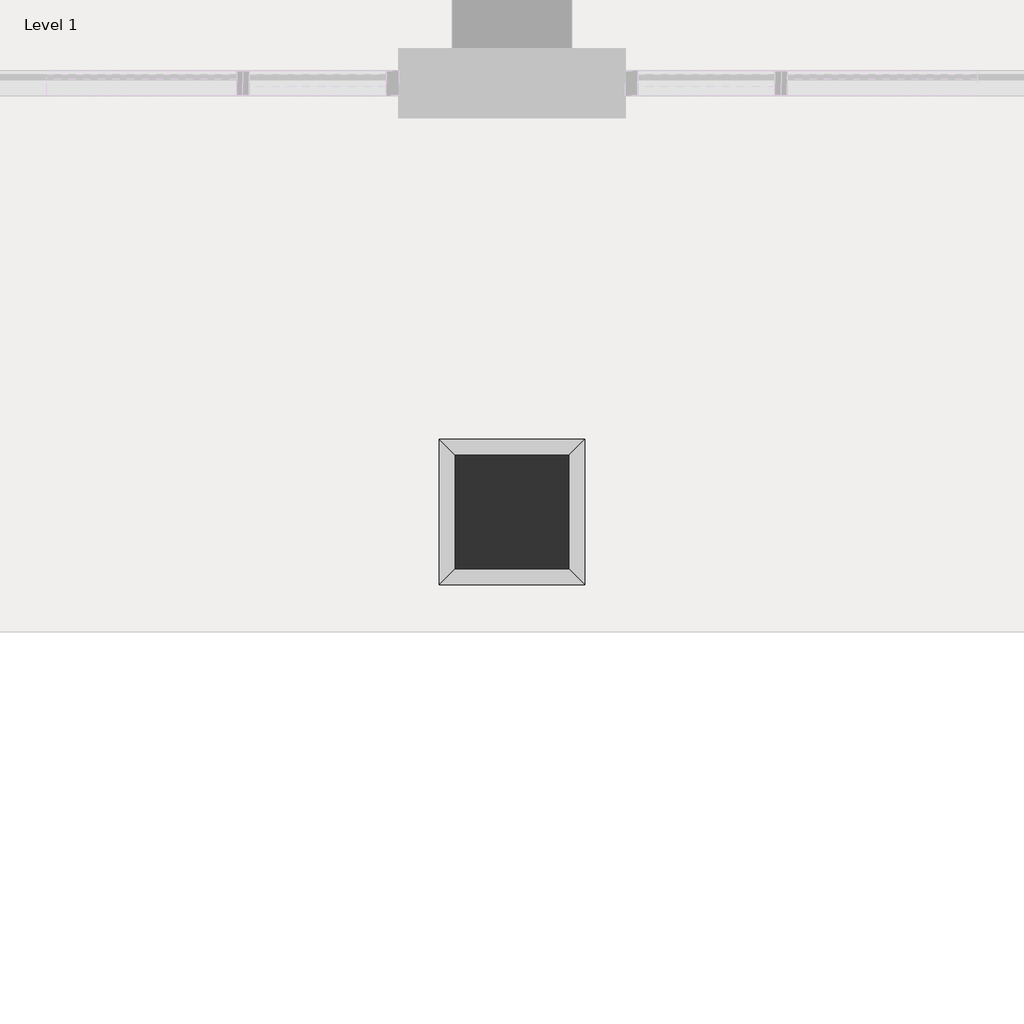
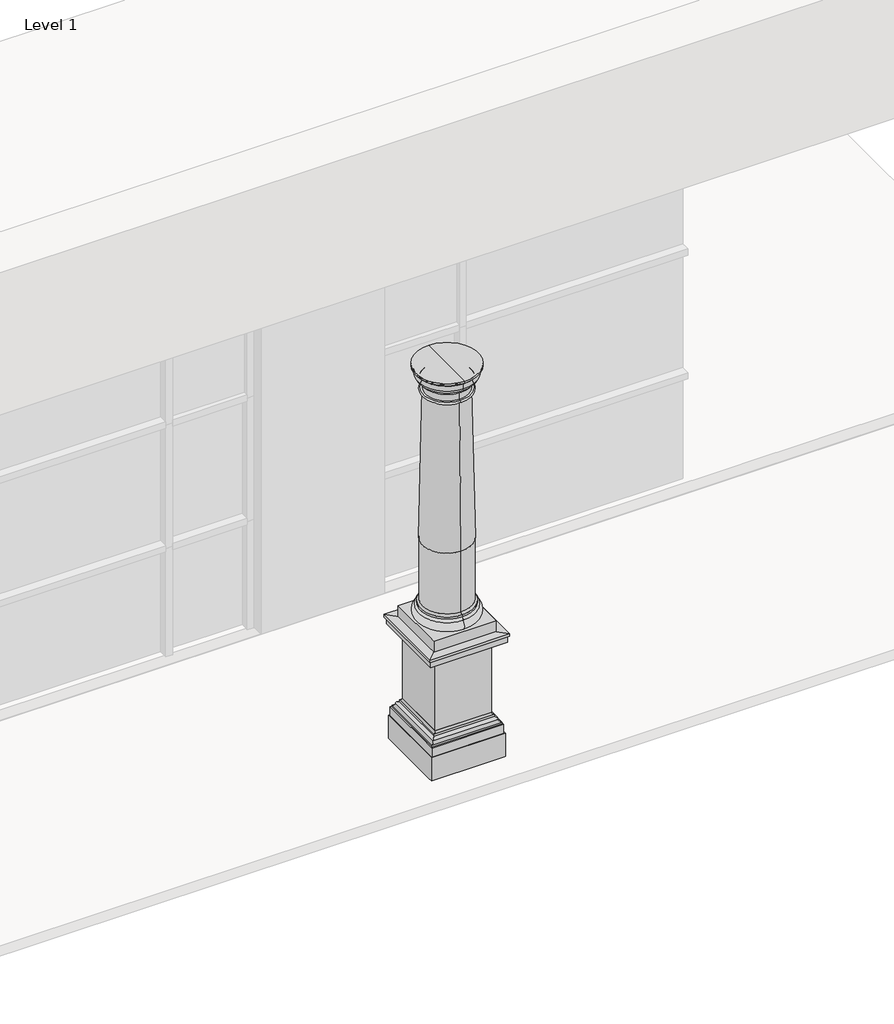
# One storey, part 6 of 8: 1 column.
"""IFC4 building model written with IfcOpenShell, lengths in millimetres."""

from ifc_helpers import new_model, si_unit, point, frame, origin, place, context, project, spatial, polyline, circle_curve, ellipse_curve, trimmed, outline, extrude, faceted_brep, element, save
from ifc_brep_helpers import plane_surface, cylinder_surface, revolved_surface, advanced_brep

model = new_model("IFC4")

# Units and contexts
model_context = context("Model", 3, world=origin())
ifc_project = project(units=[si_unit("LENGTHUNIT", "METRE", prefix="MILLI")], contexts=[model_context])

# Site, building, storey
site = spatial("IfcSite", under=ifc_project)
building = spatial("IfcBuilding", under=site)
storey = spatial("IfcBuildingStorey", under=building, Name="Level 1", Elevation=0.0)

# Column
placement = place(None, origin())
element("IfcColumn", 1, ObjectType="Doric Column : 16'  Height (10 2/3 x Dia.)", at=placement, inside=storey, context=model_context, shape_type="SolidModel", body=[
    extrude(outline(polyline([(10198.6358448, -1720.0769576), (10198.6358448, -2297.9269576), (9620.7858448, -2297.9269576), (9620.7858448, -1720.0769576), (10198.6358448, -1720.0769576)])), frame((0.0, 0.0, 1117.6), z_axis=(0.0, 0.0, 1.0), x_axis=(1.0, 0.0, 0.0)), (0.0, 0.0, 1.0), 107.95),
    faceted_brep([(9681.1108448, -2237.6019576, 1117.6), (9538.2358448, -2380.4769576, 1117.6), (10281.1858448, -2380.4769576, 1117.6), (10138.3108448, -2237.6019576, 1117.6), (9681.1108448, -2237.6019576, 1003.3), (10138.3108448, -2237.6019576, 1003.3), (9609.8279277, -2308.8848746, 1003.3), (10209.5937619, -2308.8848746, 1003.3), (9576.3358448, -2342.3769576, 1028.7), (10243.0858448, -2342.3769576, 1028.7), (9550.9358448, -2367.7769576, 1028.7), (10268.4858448, -2367.7769576, 1028.7), (9550.9358448, -2367.7769576, 1092.2), (10268.4858448, -2367.7769576, 1092.2), (9538.2358448, -2380.4769576, 1092.2), (10281.1858448, -2380.4769576, 1092.2), (10281.1858448, -1637.5269576, 1117.6), (10138.3108448, -1780.4019576, 1117.6), (10138.3108448, -1780.4019576, 1003.3), (10209.5937619, -1709.1190405, 1003.3), (10243.0858448, -1675.6269576, 1028.7), (10268.4858448, -1650.2269576, 1028.7), (10268.4858448, -1650.2269576, 1092.2), (10281.1858448, -1637.5269576, 1092.2), (9538.2358448, -1637.5269576, 1117.6), (9681.1108448, -1780.4019576, 1117.6), (9681.1108448, -1780.4019576, 1003.3), (9609.8279277, -1709.1190405, 1003.3), (9576.3358448, -1675.6269576, 1028.7), (9550.9358448, -1650.2269576, 1028.7), (9550.9358448, -1650.2269576, 1092.2), (9538.2358448, -1637.5269576, 1092.2)], [[[0, 1, 2, 3]], [[4, 0, 3, 5]], [[6, 4, 5, 7]], [[8, 6, 7, 9]], [[10, 8, 9, 11]], [[12, 10, 11, 13]], [[14, 12, 13, 15]], [[1, 14, 15, 2]], [[3, 2, 16, 17]], [[5, 3, 17, 18]], [[7, 5, 18, 19]], [[9, 7, 19, 20]], [[11, 9, 20, 21]], [[13, 11, 21, 22]], [[15, 13, 22, 23]], [[2, 15, 23, 16]], [[17, 16, 24, 25]], [[18, 17, 25, 26]], [[19, 18, 26, 27]], [[20, 19, 27, 28]], [[21, 20, 28, 29]], [[22, 21, 29, 30]], [[23, 22, 30, 31]], [[16, 23, 31, 24]], [[25, 24, 1, 0]], [[26, 25, 0, 4]], [[27, 26, 4, 6]], [[28, 27, 6, 8]], [[29, 28, 8, 10]], [[30, 29, 10, 12]], [[31, 30, 12, 14]], [[24, 31, 14, 1]]]),
    advanced_brep(
    [(9909.7108448, -2256.6519576, 1358.9), (9909.7108448, -1761.3519576, 1358.9), (9909.7108448, -1780.4019576, 1377.95), (9909.7108448, -2237.6019576, 1377.95), (9909.7108448, -1780.4019576, 1976.1708333), (9909.7108448, -2237.6019576, 1976.1708333), (9909.7108448, -2256.6519576, 1339.85), (9909.7108448, -1761.3519576, 1339.85), (9909.7108448, -2256.6519576, 1308.1), (9909.7108448, -1761.3519576, 1308.1), (9909.7108448, -2256.6519576, 1225.55), (9909.7108448, -1761.3519576, 1225.55), (9909.7108448, -2009.0019576, 1225.55), (9909.7108448, -1808.9769576, 3439.3125), (9909.7108448, -2209.0269576, 3439.3125), (9909.7108448, -2301.1019576, 3674.2625601), (9909.7108448, -1716.9019576, 3674.2625601), (9909.7108448, -1716.9019576, 3693.3125), (9909.7108448, -2301.1019576, 3693.3125), (9909.7108448, -2009.0019576, 3693.3125), (9909.7108448, -2282.0518974, 3655.2125), (9909.7108448, -1735.9520177, 3655.2125), (9909.7108448, -2278.8769576, 3655.2125), (9909.7108448, -1739.1269576, 3655.2125), (9909.7108448, -2278.8769576, 3604.4125), (9909.7108448, -1739.1269576, 3604.4125), (9909.7108448, -2272.5269576, 3604.4125), (9909.7108448, -1745.4769576, 3604.4125), (9909.7108448, -2228.0769576, 3559.9625), (9909.7108448, -1789.9269576, 3559.9625), (9909.7108448, -2228.0769576, 3540.9125), (9909.7108448, -1789.9269576, 3540.9125), (9909.7108448, -2209.0269576, 3540.9125), (9909.7108448, -1808.9769576, 3540.9125), (9909.7108448, -2209.0269576, 3458.3625), (9909.7108448, -1808.9769576, 3458.3625), (9909.7108448, -2228.0769576, 3458.3625), (9909.7108448, -1789.9269576, 3458.3625), (9909.7108448, -2228.0769576, 3439.3125), (9909.7108448, -1789.9269576, 3439.3125)],
    [
        (0, 1, circle_curve(frame((9909.7108448, -2009.0019576, 1358.9), z_axis=(0.0, 0.0, 1.0), x_axis=(0.0, 1.0, 0.0)), 247.65)),
        (1, 2, circle_curve(frame((9909.7108448, -1761.3519576, 1377.95), z_axis=(-1.0, 0.0, 0.0), x_axis=(0.0, -1.0, 0.0)), 19.05)),
        (2, 3, circle_curve(frame((9909.7108448, -2009.0019576, 1377.95), z_axis=(0.0, 0.0, -1.0), x_axis=(0.0, 1.0, 0.0)), 228.6)),
        (3, 0, circle_curve(frame((9909.7108448, -2256.6519576, 1377.95), z_axis=(-1.0, 0.0, 0.0), x_axis=(0.0, 1.0, 0.0)), 19.05)),
        (2, 4),
        (4, 5, circle_curve(frame((9909.7108448, -2009.0019576, 1976.1708333), z_axis=(0.0, 0.0, -1.0), x_axis=(0.0, 1.0, 0.0)), 228.6)),
        (5, 3),
        (2, 3, circle_curve(frame((9909.7108448, -2009.0019576, 1377.95), z_axis=(0.0, 0.0, 1.0), x_axis=(0.0, 1.0, 0.0)), 228.6)),
        (5, 4, circle_curve(frame((9909.7108448, -2009.0019576, 1976.1708333), z_axis=(0.0, 0.0, -1.0), x_axis=(0.0, 1.0, 0.0)), 228.6)),
        (1, 0, circle_curve(frame((9909.7108448, -2009.0019576, 1358.9), z_axis=(0.0, 0.0, 1.0), x_axis=(0.0, 1.0, 0.0)), 247.65)),
        (6, 7, circle_curve(frame((9909.7108448, -2009.0019576, 1339.85), z_axis=(0.0, 0.0, 1.0), x_axis=(0.0, 1.0, 0.0)), 247.65)),
        (7, 1),
        (0, 6),
        (7, 6, circle_curve(frame((9909.7108448, -2009.0019576, 1339.85), z_axis=(0.0, 0.0, 1.0), x_axis=(0.0, 1.0, 0.0)), 247.65)),
        (8, 9, circle_curve(frame((9909.7108448, -2009.0019576, 1308.1), z_axis=(0.0, 0.0, 1.0), x_axis=(0.0, 1.0, 0.0)), 247.65)),
        (9, 7, circle_curve(frame((9909.7108448, -1761.3519576, 1323.975), z_axis=(1.0, 0.0, 0.0), x_axis=(0.0, -1.0, 0.0)), 15.875)),
        (6, 8, circle_curve(frame((9909.7108448, -2256.6519576, 1323.975), z_axis=(1.0, 0.0, 0.0), x_axis=(0.0, 1.0, 0.0)), 15.875)),
        (9, 8, circle_curve(frame((9909.7108448, -2009.0019576, 1308.1), z_axis=(0.0, 0.0, 1.0), x_axis=(0.0, 1.0, 0.0)), 247.65)),
        (10, 11, circle_curve(frame((9909.7108448, -2009.0019576, 1225.55), z_axis=(0.0, 0.0, 1.0), x_axis=(0.0, 1.0, 0.0)), 247.65)),
        (11, 9, circle_curve(frame((9909.7108448, -1761.3519576, 1266.825), z_axis=(1.0, 0.0, 0.0), x_axis=(0.0, -1.0, 0.0)), 41.275)),
        (8, 10, circle_curve(frame((9909.7108448, -2256.6519576, 1266.825), z_axis=(1.0, 0.0, 0.0), x_axis=(0.0, 1.0, 0.0)), 41.275)),
        (11, 10, circle_curve(frame((9909.7108448, -2009.0019576, 1225.55), z_axis=(0.0, 0.0, 1.0), x_axis=(0.0, 1.0, 0.0)), 247.65)),
        (12, 11),
        (10, 12),
        (4, 13),
        (13, 14, circle_curve(frame((9909.7108448, -2009.0019576, 3439.3125), z_axis=(0.0, 0.0, -1.0), x_axis=(0.0, 1.0, 0.0)), 200.025)),
        (14, 5),
        (14, 13, circle_curve(frame((9909.7108448, -2009.0019576, 3439.3125), z_axis=(0.0, 0.0, -1.0), x_axis=(0.0, 1.0, 0.0)), 200.025)),
        (15, 16, circle_curve(frame((9909.7108448, -2009.0019576, 3674.2625601), z_axis=(0.0, 0.0, 1.0), x_axis=(0.0, 1.0, 0.0)), 292.1)),
        (16, 17),
        (17, 18, circle_curve(frame((9909.7108448, -2009.0019576, 3693.3125), z_axis=(0.0, 0.0, -1.0), x_axis=(0.0, 1.0, 0.0)), 292.1)),
        (18, 15),
        (17, 19),
        (19, 18),
        (17, 18, circle_curve(frame((9909.7108448, -2009.0019576, 3693.3125), z_axis=(0.0, 0.0, 1.0), x_axis=(0.0, 1.0, 0.0)), 292.1)),
        (16, 15, circle_curve(frame((9909.7108448, -2009.0019576, 3674.2625601), z_axis=(0.0, 0.0, 1.0), x_axis=(0.0, 1.0, 0.0)), 292.1)),
        (20, 21, circle_curve(frame((9909.7108448, -2009.0019576, 3655.2125), z_axis=(0.0, 0.0, 1.0), x_axis=(0.0, 1.0, 0.0)), 273.0499399)),
        (21, 16, circle_curve(frame((9909.7108448, -1716.9019576, 3655.2125), z_axis=(-1.0, 0.0, 0.0), x_axis=(0.0, -1.0, 0.0)), 19.0500601)),
        (15, 20, circle_curve(frame((9909.7108448, -2301.1019576, 3655.2125), z_axis=(-1.0, 0.0, 0.0), x_axis=(0.0, 1.0, 0.0)), 19.0500601)),
        (21, 20, circle_curve(frame((9909.7108448, -2009.0019576, 3655.2125), z_axis=(0.0, 0.0, 1.0), x_axis=(0.0, 1.0, 0.0)), 273.0499399)),
        (22, 23, circle_curve(frame((9909.7108448, -2009.0019576, 3655.2125), z_axis=(0.0, 0.0, 1.0), x_axis=(0.0, 1.0, 0.0)), 269.875)),
        (23, 21),
        (20, 22),
        (23, 22, circle_curve(frame((9909.7108448, -2009.0019576, 3655.2125), z_axis=(0.0, 0.0, 1.0), x_axis=(0.0, 1.0, 0.0)), 269.875)),
        (24, 25, circle_curve(frame((9909.7108448, -2009.0019576, 3604.4125), z_axis=(0.0, 0.0, 1.0), x_axis=(0.0, 1.0, 0.0)), 269.875)),
        (25, 23),
        (22, 24),
        (25, 24, circle_curve(frame((9909.7108448, -2009.0019576, 3604.4125), z_axis=(0.0, 0.0, 1.0), x_axis=(0.0, 1.0, 0.0)), 269.875)),
        (26, 27, circle_curve(frame((9909.7108448, -2009.0019576, 3604.4125), z_axis=(0.0, 0.0, 1.0), x_axis=(0.0, 1.0, 0.0)), 263.525)),
        (27, 25),
        (24, 26),
        (27, 26, circle_curve(frame((9909.7108448, -2009.0019576, 3604.4125), z_axis=(0.0, 0.0, 1.0), x_axis=(0.0, 1.0, 0.0)), 263.525)),
        (28, 29, circle_curve(frame((9909.7108448, -2009.0019576, 3559.9625), z_axis=(0.0, 0.0, 1.0), x_axis=(0.0, 1.0, 0.0)), 219.075)),
        (29, 27, circle_curve(frame((9909.7108448, -1789.9269576, 3604.4125), z_axis=(1.0, 0.0, 0.0), x_axis=(0.0, -1.0, 0.0)), 44.45)),
        (26, 28, circle_curve(frame((9909.7108448, -2228.0769576, 3604.4125), z_axis=(1.0, 0.0, 0.0), x_axis=(0.0, 1.0, 0.0)), 44.45)),
        (29, 28, circle_curve(frame((9909.7108448, -2009.0019576, 3559.9625), z_axis=(0.0, 0.0, 1.0), x_axis=(0.0, 1.0, 0.0)), 219.075)),
        (30, 31, circle_curve(frame((9909.7108448, -2009.0019576, 3540.9125), z_axis=(0.0, 0.0, 1.0), x_axis=(0.0, 1.0, 0.0)), 219.075)),
        (31, 29, circle_curve(frame((9909.7108448, -1789.9269576, 3550.4375), z_axis=(1.0, 0.0, 0.0), x_axis=(0.0, -1.0, 0.0)), 9.525)),
        (28, 30, circle_curve(frame((9909.7108448, -2228.0769576, 3550.4375), z_axis=(1.0, 0.0, 0.0), x_axis=(0.0, 1.0, 0.0)), 9.525)),
        (31, 30, circle_curve(frame((9909.7108448, -2009.0019576, 3540.9125), z_axis=(0.0, 0.0, 1.0), x_axis=(0.0, 1.0, 0.0)), 219.075)),
        (32, 33, circle_curve(frame((9909.7108448, -2009.0019576, 3540.9125), z_axis=(0.0, 0.0, 1.0), x_axis=(0.0, 1.0, 0.0)), 200.025)),
        (33, 31),
        (30, 32),
        (33, 32, circle_curve(frame((9909.7108448, -2009.0019576, 3540.9125), z_axis=(0.0, 0.0, 1.0), x_axis=(0.0, 1.0, 0.0)), 200.025)),
        (34, 35, circle_curve(frame((9909.7108448, -2009.0019576, 3458.3625), z_axis=(0.0, 0.0, 1.0), x_axis=(0.0, 1.0, 0.0)), 200.025)),
        (35, 33),
        (32, 34),
        (35, 34, circle_curve(frame((9909.7108448, -2009.0019576, 3458.3625), z_axis=(0.0, 0.0, 1.0), x_axis=(0.0, 1.0, 0.0)), 200.025)),
        (36, 37, circle_curve(frame((9909.7108448, -2009.0019576, 3458.3625), z_axis=(0.0, 0.0, 1.0), x_axis=(0.0, 1.0, 0.0)), 219.075)),
        (37, 35),
        (34, 36),
        (37, 36, circle_curve(frame((9909.7108448, -2009.0019576, 3458.3625), z_axis=(0.0, 0.0, 1.0), x_axis=(0.0, 1.0, 0.0)), 219.075)),
        (38, 39, circle_curve(frame((9909.7108448, -2009.0019576, 3439.3125), z_axis=(0.0, 0.0, 1.0), x_axis=(0.0, 1.0, 0.0)), 219.075)),
        (39, 37, circle_curve(frame((9909.7108448, -1789.9269576, 3448.8375), z_axis=(1.0, 0.0, 0.0), x_axis=(0.0, -1.0, 0.0)), 9.525)),
        (36, 38, circle_curve(frame((9909.7108448, -2228.0769576, 3448.8375), z_axis=(1.0, 0.0, 0.0), x_axis=(0.0, 1.0, 0.0)), 9.525)),
        (39, 38, circle_curve(frame((9909.7108448, -2009.0019576, 3439.3125), z_axis=(0.0, 0.0, 1.0), x_axis=(0.0, 1.0, 0.0)), 219.075)),
        (13, 39),
        (38, 14),
    ],
    [
        revolved_surface(trimmed(ellipse_curve(frame((9909.7108448, -1761.3519576, 1377.95), z_axis=(1.0, 0.0, 0.0), x_axis=(0.0, -1.0, 0.0)), 19.05, 19.05), [point((9909.7108448, -1780.4019576, 1377.95))], [point((9909.7108448, -1761.3519576, 1358.9))], True, "CARTESIAN"), (9909.7108448, -2009.0019576, 3693.3125), (0.0, 0.0, -1.0)),
        cylinder_surface(frame((9909.7108448, -2009.0019576, 3693.3125), z_axis=(0.0, 0.0, -1.0), x_axis=(0.0, 1.0, 0.0)), 228.6),
        cylinder_surface(frame((9909.7108448, -2009.0019576, 3693.3125), z_axis=(0.0, 0.0, -1.0), x_axis=(0.0, 1.0, 0.0)), 247.65),
        revolved_surface(trimmed(ellipse_curve(frame((9909.7108448, -1761.3519576, 1323.975), z_axis=(-1.0, 0.0, 0.0), x_axis=(0.0, -1.0, 0.0)), 15.875, 15.875), [point((9909.7108448, -1761.3519576, 1339.85))], [point((9909.7108448, -1761.3519576, 1308.1))], True, "CARTESIAN"), (9909.7108448, -2009.0019576, 3693.3125), (0.0, 0.0, -1.0)),
        revolved_surface(trimmed(ellipse_curve(frame((9909.7108448, -1761.3519576, 1266.825), z_axis=(-1.0, 0.0, 0.0), x_axis=(0.0, -1.0, 0.0)), 41.275, 41.275), [point((9909.7108448, -1761.3519576, 1308.1))], [point((9909.7108448, -1761.3519576, 1225.55))], True, "CARTESIAN"), (9909.7108448, -2009.0019576, 3693.3125), (0.0, 0.0, -1.0)),
        plane_surface(frame((9909.7108448, -2009.0019576, 1225.55), z_axis=(0.0, 0.0, -1.0), x_axis=(0.0, 1.0, 0.0))),
        revolved_surface(polyline([(9909.7108448, -1808.9769576, 3439.3125), (9909.7108448, -1780.4019576, 1976.1708333)]), (9909.7108448, -2009.0019576, 3693.3125), (0.0, 0.0, -1.0)),
        cylinder_surface(frame((9909.7108448, -2009.0019576, 3693.3125), z_axis=(0.0, 0.0, -1.0), x_axis=(0.0, 1.0, 0.0)), 292.1),
        plane_surface(frame((9909.7108448, -2009.0019576, 3693.3125), z_axis=(0.0, 0.0, 1.0), x_axis=(0.0, 1.0, 0.0))),
        revolved_surface(trimmed(ellipse_curve(frame((9909.7108448, -1716.9019576, 3655.2125), z_axis=(1.0, 0.0, 0.0), x_axis=(0.0, -1.0, 0.0)), 19.0500601, 19.0500601), [point((9909.7108448, -1716.9019576, 3674.2625601))], [point((9909.7108448, -1735.9520177, 3655.2125))], True, "CARTESIAN"), (9909.7108448, -2009.0019576, 3693.3125), (0.0, 0.0, -1.0)),
        plane_surface(frame((9909.7108448, -2009.0019576, 3655.2125), z_axis=(0.0, 0.0, -1.0), x_axis=(0.0, 1.0, 0.0))),
        cylinder_surface(frame((9909.7108448, -2009.0019576, 3693.3125), z_axis=(0.0, 0.0, -1.0), x_axis=(0.0, 1.0, 0.0)), 269.875),
        plane_surface(frame((9909.7108448, -2009.0019576, 3604.4125), z_axis=(0.0, 0.0, -1.0), x_axis=(0.0, 1.0, 0.0))),
        revolved_surface(trimmed(ellipse_curve(frame((9909.7108448, -1789.9269576, 3604.4125), z_axis=(-1.0, 0.0, 0.0), x_axis=(0.0, -1.0, 0.0)), 44.45, 44.45), [point((9909.7108448, -1745.4769576, 3604.4125))], [point((9909.7108448, -1789.9269576, 3559.9625))], True, "CARTESIAN"), (9909.7108448, -2009.0019576, 3693.3125), (0.0, 0.0, -1.0)),
        revolved_surface(trimmed(ellipse_curve(frame((9909.7108448, -1789.9269576, 3550.4375), z_axis=(-1.0, 0.0, 0.0), x_axis=(0.0, -1.0, 0.0)), 9.525, 9.525), [point((9909.7108448, -1789.9269576, 3559.9625))], [point((9909.7108448, -1789.9269576, 3540.9125))], True, "CARTESIAN"), (9909.7108448, -2009.0019576, 3693.3125), (0.0, 0.0, -1.0)),
        plane_surface(frame((9909.7108448, -2009.0019576, 3540.9125), z_axis=(0.0, 0.0, -1.0), x_axis=(0.0, 1.0, 0.0))),
        cylinder_surface(frame((9909.7108448, -2009.0019576, 3693.3125), z_axis=(0.0, 0.0, -1.0), x_axis=(0.0, 1.0, 0.0)), 200.025),
        plane_surface(frame((9909.7108448, -2009.0019576, 3458.3625), z_axis=(0.0, 0.0, 1.0), x_axis=(0.0, 1.0, 0.0))),
        revolved_surface(trimmed(ellipse_curve(frame((9909.7108448, -1789.9269576, 3448.8375), z_axis=(-1.0, 0.0, 0.0), x_axis=(0.0, -1.0, 0.0)), 9.525, 9.525), [point((9909.7108448, -1789.9269576, 3458.3625))], [point((9909.7108448, -1789.9269576, 3439.3125))], True, "CARTESIAN"), (9909.7108448, -2009.0019576, 3693.3125), (0.0, 0.0, -1.0)),
        plane_surface(frame((9909.7108448, -2009.0019576, 3439.3125), z_axis=(0.0, 0.0, -1.0), x_axis=(0.0, 1.0, 0.0))),
    ],
    [
        (0, [[1, 2, 3, 4]]),
        (1, [[-3, 5, 6, 7]]),
        (1, [[8, -7, 9, -5]]),
        (0, [[10, -4, -8, -2]]),
        (2, [[11, 12, -1, 13]]),
        (2, [[14, -13, -10, -12]]),
        (3, [[15, 16, -11, 17]]),
        (3, [[18, -17, -14, -16]]),
        (4, [[19, 20, -15, 21]]),
        (4, [[22, -21, -18, -20]]),
        (5, [[23, -19, 24]]),
        (5, [[-24, -22, -23]]),
        (6, [[-6, 25, 26, 27]]),
        (6, [[-9, -27, 28, -25]]),
        (7, [[29, 30, 31, 32]]),
        (8, [[-31, 33, 34]]),
        (8, [[35, -34, -33]]),
        (7, [[36, -32, -35, -30]]),
        (9, [[37, 38, -29, 39]]),
        (9, [[40, -39, -36, -38]]),
        (10, [[41, 42, -37, 43]]),
        (10, [[44, -43, -40, -42]]),
        (11, [[45, 46, -41, 47]]),
        (11, [[48, -47, -44, -46]]),
        (12, [[49, 50, -45, 51]]),
        (12, [[52, -51, -48, -50]]),
        (13, [[53, 54, -49, 55]]),
        (13, [[56, -55, -52, -54]]),
        (14, [[57, 58, -53, 59]]),
        (14, [[60, -59, -56, -58]]),
        (15, [[61, 62, -57, 63]]),
        (15, [[64, -63, -60, -62]]),
        (16, [[65, 66, -61, 67]]),
        (16, [[68, -67, -64, -66]]),
        (17, [[69, 70, -65, 71]]),
        (17, [[72, -71, -68, -70]]),
        (18, [[73, 74, -69, 75]]),
        (18, [[76, -75, -72, -74]]),
        (19, [[-26, 77, -73, 78]]),
        (19, [[-28, -78, -76, -77]]),
    ],
),
    advanced_brep(
    [(10255.1559911, -1663.5568112, -101.6), (10255.1559911, -1663.5568112, 127.0), (10255.1559911, -2354.4471039, 127.0), (10255.1559911, -2354.4471039, -101.6), (10138.3108448, -1780.4019576, -101.6), (10138.3108448, -2237.6019576, -101.6), (10138.3108448, -1780.4019576, 317.5), (10138.3108448, -2237.6019576, 317.5), (10172.6059911, -1746.1068112, 317.5), (10172.6059911, -2271.8971039, 317.5), (10191.6559911, -1727.0568112, 298.45), (10191.6559911, -2290.9471039, 298.45), (10191.6559911, -1727.0568112, 279.4), (10191.6559911, -2290.9471039, 279.4), (10213.8809911, -1704.8318112, 257.175), (10213.8809911, -2313.1721039, 257.175), (10236.1059911, -1682.6068112, 234.95), (10236.1059911, -2335.3971039, 234.95), (10236.1059911, -1682.6068112, 215.9), (10236.1059911, -2335.3971039, 215.9), (10245.6309911, -1673.0818112, 215.9), (10245.6309911, -2344.9221039, 215.9), (10245.6309911, -1673.0818112, 127.0), (10245.6309911, -2344.9221039, 127.0), (9564.2656985, -2354.4471039, 127.0), (9564.2656985, -2354.4471039, -101.6), (9681.1108448, -2237.6019576, -101.6), (9681.1108448, -2237.6019576, 317.5), (9646.8156985, -2271.8971039, 317.5), (9627.7656985, -2290.9471039, 298.45), (9627.7656985, -2290.9471039, 279.4), (9605.5406985, -2313.1721039, 257.175), (9583.3156985, -2335.3971039, 234.95), (9583.3156985, -2335.3971039, 215.9), (9573.7906985, -2344.9221039, 215.9), (9573.7906985, -2344.9221039, 127.0), (9564.2656985, -1663.5568112, 127.0), (9564.2656985, -1663.5568112, -101.6), (9681.1108448, -1780.4019576, -101.6), (9681.1108448, -1780.4019576, 317.5), (9646.8156985, -1746.1068112, 317.5), (9627.7656985, -1727.0568112, 298.45), (9627.7656985, -1727.0568112, 279.4), (9605.5406985, -1704.8318112, 257.175), (9583.3156985, -1682.6068112, 234.95), (9583.3156985, -1682.6068112, 215.9), (9573.7906985, -1673.0818112, 215.9), (9573.7906985, -1673.0818112, 127.0)],
    [
        (0, 1),
        (1, 2),
        (2, 3),
        (3, 0),
        (4, 0),
        (3, 5),
        (5, 4),
        (6, 4),
        (5, 7),
        (7, 6),
        (8, 6),
        (7, 9),
        (9, 8),
        (10, 8, ellipse_curve(frame((10191.6559911, -1727.0568112, 317.5), z_axis=(-0.7071067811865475, 0.7071067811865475, 0.0), x_axis=(-0.7071067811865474, -0.7071067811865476, 0.0)), 26.9407684, 19.05)),
        (9, 11, ellipse_curve(frame((10191.6559911, -2290.9471039, 317.5), z_axis=(-0.7071067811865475, -0.7071067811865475, 0.0), x_axis=(0.7071067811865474, -0.7071067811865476, 0.0)), 26.9407684, 19.05)),
        (11, 10),
        (12, 10),
        (11, 13),
        (13, 12),
        (14, 12, ellipse_curve(frame((10191.6559911, -1727.0568112, 257.175), z_axis=(0.7071067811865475, -0.7071067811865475, 0.0), x_axis=(0.7071067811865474, 0.7071067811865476, 0.0)), 31.4308964, 22.225)),
        (13, 15, ellipse_curve(frame((10191.6559911, -2290.9471039, 257.175), z_axis=(0.7071067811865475, 0.7071067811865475, 0.0), x_axis=(-0.7071067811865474, 0.7071067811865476, 0.0)), 31.4308964, 22.225)),
        (15, 14),
        (16, 14, ellipse_curve(frame((10236.1059911, -1682.6068112, 257.175), z_axis=(-0.7071067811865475, 0.7071067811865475, 0.0), x_axis=(-0.7071067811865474, -0.7071067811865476, 0.0)), 31.4308964, 22.225)),
        (15, 17, ellipse_curve(frame((10236.1059911, -2335.3971039, 257.175), z_axis=(-0.7071067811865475, -0.7071067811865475, 0.0), x_axis=(0.7071067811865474, -0.7071067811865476, 0.0)), 31.4308964, 22.225)),
        (17, 16),
        (18, 16),
        (17, 19),
        (19, 18),
        (20, 18),
        (19, 21),
        (21, 20),
        (22, 20),
        (21, 23),
        (23, 22),
        (1, 22),
        (23, 2),
        (2, 24),
        (24, 25),
        (25, 3),
        (25, 26),
        (26, 5),
        (26, 27),
        (27, 7),
        (27, 28),
        (28, 9),
        (28, 29, ellipse_curve(frame((9627.7656985, -2290.9471039, 317.5), z_axis=(-0.7071067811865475, 0.7071067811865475, 0.0), x_axis=(-0.7071067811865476, -0.7071067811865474, 0.0)), 26.9407684, 19.05)),
        (29, 11),
        (29, 30),
        (30, 13),
        (30, 31, ellipse_curve(frame((9627.7656985, -2290.9471039, 257.175), z_axis=(0.7071067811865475, -0.7071067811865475, 0.0), x_axis=(0.7071067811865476, 0.7071067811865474, 0.0)), 31.4308964, 22.225)),
        (31, 15),
        (31, 32, ellipse_curve(frame((9583.3156985, -2335.3971039, 257.175), z_axis=(-0.7071067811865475, 0.7071067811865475, 0.0), x_axis=(-0.7071067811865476, -0.7071067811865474, 0.0)), 31.4308964, 22.225)),
        (32, 17),
        (32, 33),
        (33, 19),
        (33, 34),
        (34, 21),
        (34, 35),
        (35, 23),
        (35, 24),
        (24, 36),
        (36, 37),
        (37, 25),
        (37, 38),
        (38, 26),
        (38, 39),
        (39, 27),
        (39, 40),
        (40, 28),
        (40, 41, ellipse_curve(frame((9627.7656985, -1727.0568112, 317.5), z_axis=(0.7071067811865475, 0.7071067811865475, 0.0), x_axis=(-0.7071067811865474, 0.7071067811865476, 0.0)), 26.9407684, 19.05)),
        (41, 29),
        (41, 42),
        (42, 30),
        (42, 43, ellipse_curve(frame((9627.7656985, -1727.0568112, 257.175), z_axis=(-0.7071067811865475, -0.7071067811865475, 0.0), x_axis=(0.7071067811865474, -0.7071067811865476, 0.0)), 31.4308964, 22.225)),
        (43, 31),
        (43, 44, ellipse_curve(frame((9583.3156985, -1682.6068112, 257.175), z_axis=(0.7071067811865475, 0.7071067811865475, 0.0), x_axis=(-0.7071067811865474, 0.7071067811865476, 0.0)), 31.4308964, 22.225)),
        (44, 32),
        (44, 45),
        (45, 33),
        (45, 46),
        (46, 34),
        (46, 47),
        (47, 35),
        (47, 36),
        (36, 1),
        (0, 37),
        (4, 38),
        (6, 39),
        (8, 40),
        (10, 41),
        (12, 42),
        (14, 43),
        (16, 44),
        (18, 45),
        (20, 46),
        (22, 47),
    ],
    [
        plane_surface(frame((10255.1559911, -1663.5568112, 127.0), z_axis=(1.0, 0.0, 0.0), x_axis=(0.0, -1.0, 0.0))),
        plane_surface(frame((10255.1559911, -1663.5568112, -101.6), z_axis=(0.0, 0.0, -1.0), x_axis=(0.0, -1.0, 0.0))),
        plane_surface(frame((10138.3108448, -1780.4019576, -101.6), z_axis=(-1.0, 0.0, 0.0), x_axis=(0.0, -1.0, 0.0))),
        plane_surface(frame((10138.3108448, -1780.4019576, 317.5), z_axis=(0.0, 0.0, 1.0), x_axis=(0.0, -1.0, 0.0))),
        revolved_surface(polyline([(10210.7059911, -2309.9971039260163, 317.5), (10210.7059911, -1708.0068111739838, 317.5)]), (10191.6559911, -1650.5418844, 317.5), (0.0, -1.0, 0.0)),
        plane_surface(frame((10191.6559911, -1727.0568112, 298.45), z_axis=(1.0, 0.0, 0.0), x_axis=(0.0, -1.0, 0.0))),
        cylinder_surface(frame((10191.6559911, -1650.5418844, 257.175), z_axis=(0.0, 1.0, 0.0), x_axis=(1.0, 0.0, 0.0)), 22.225),
        revolved_surface(polyline([(10258.3309911, -2357.622103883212, 257.175), (10258.3309911, -1660.3818112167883, 257.175)]), (10236.1059911, -1650.5418844, 257.175), (0.0, -1.0, 0.0)),
        plane_surface(frame((10236.1059911, -1682.6068112, 234.95), z_axis=(1.0, 0.0, 0.0), x_axis=(0.0, -1.0, 0.0))),
        plane_surface(frame((10236.1059911, -1682.6068112, 215.9), z_axis=(0.0, 0.0, 1.0), x_axis=(0.0, -1.0, 0.0))),
        plane_surface(frame((10245.6309911, -1673.0818112, 215.9), z_axis=(1.0, 0.0, 0.0), x_axis=(0.0, -1.0, 0.0))),
        plane_surface(frame((10245.6309911, -1673.0818112, 127.0), z_axis=(0.0, 0.0, 1.0), x_axis=(0.0, -1.0, 0.0))),
        plane_surface(frame((10255.1559911, -2354.4471039, 127.0), z_axis=(0.0, -1.0, 0.0), x_axis=(-1.0, 0.0, 0.0))),
        plane_surface(frame((10255.1559911, -2354.4471039, -101.6), z_axis=(0.0, 0.0, -1.0), x_axis=(-1.0, 0.0, 0.0))),
        plane_surface(frame((10138.3108448, -2237.6019576, -101.6), z_axis=(0.0, 1.0, 0.0), x_axis=(-1.0, 0.0, 0.0))),
        plane_surface(frame((10138.3108448, -2237.6019576, 317.5), z_axis=(0.0, 0.0, 1.0), x_axis=(-1.0, 0.0, 0.0))),
        revolved_surface(polyline([(9608.715698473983, -2309.9971039, 317.5), (10210.705991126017, -2309.9971039, 317.5)]), (10268.170918, -2290.9471039, 317.5), (-1.0, 0.0, 0.0)),
        plane_surface(frame((10191.6559911, -2290.9471039, 298.45), z_axis=(0.0, -1.0, 0.0), x_axis=(-1.0, 0.0, 0.0))),
        cylinder_surface(frame((10268.170918, -2290.9471039, 257.175), z_axis=(1.0, 0.0, 0.0), x_axis=(0.0, -1.0, 0.0)), 22.225),
        revolved_surface(polyline([(9561.09069851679, -2357.6221038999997, 257.175), (10258.33099108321, -2357.6221038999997, 257.175)]), (10268.170918, -2335.3971039, 257.175), (-1.0, 0.0, 0.0)),
        plane_surface(frame((10236.1059911, -2335.3971039, 234.95), z_axis=(0.0, -1.0, 0.0), x_axis=(-1.0, 0.0, 0.0))),
        plane_surface(frame((10236.1059911, -2335.3971039, 215.9), z_axis=(0.0, 0.0, 1.0), x_axis=(-1.0, 0.0, 0.0))),
        plane_surface(frame((10245.6309911, -2344.9221039, 215.9), z_axis=(0.0, -1.0, 0.0), x_axis=(-1.0, 0.0, 0.0))),
        plane_surface(frame((10245.6309911, -2344.9221039, 127.0), z_axis=(0.0, 0.0, 1.0), x_axis=(-1.0, 0.0, 0.0))),
        plane_surface(frame((9564.2656985, -2354.4471039, 127.0), z_axis=(-1.0, 0.0, 0.0), x_axis=(0.0, 1.0, 0.0))),
        plane_surface(frame((9564.2656985, -2354.4471039, -101.6), z_axis=(0.0, 0.0, -1.0), x_axis=(0.0, 1.0, 0.0))),
        plane_surface(frame((9681.1108448, -2237.6019576, -101.6), z_axis=(1.0, 0.0, 0.0), x_axis=(0.0, 1.0, 0.0))),
        plane_surface(frame((9681.1108448, -2237.6019576, 317.5), z_axis=(0.0, 0.0, 1.0), x_axis=(0.0, 1.0, 0.0))),
        revolved_surface(polyline([(9608.7156985, -1708.0068111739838, 317.5), (9608.7156985, -2309.9971039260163, 317.5)]), (9627.7656985, -2367.4620307, 317.5), (0.0, 1.0, 0.0)),
        plane_surface(frame((9627.7656985, -2290.9471039, 298.45), z_axis=(-1.0, 0.0, 0.0), x_axis=(0.0, 1.0, 0.0))),
        cylinder_surface(frame((9627.7656985, -2367.4620307, 257.175), z_axis=(0.0, -1.0, 0.0), x_axis=(-1.0, 0.0, 0.0)), 22.225),
        revolved_surface(polyline([(9561.0906985, -1660.3818112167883, 257.175), (9561.0906985, -2357.622103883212, 257.175)]), (9583.3156985, -2367.4620307, 257.175), (0.0, 1.0, 0.0)),
        plane_surface(frame((9583.3156985, -2335.3971039, 234.95), z_axis=(-1.0, 0.0, 0.0), x_axis=(0.0, 1.0, 0.0))),
        plane_surface(frame((9583.3156985, -2335.3971039, 215.9), z_axis=(0.0, 0.0, 1.0), x_axis=(0.0, 1.0, 0.0))),
        plane_surface(frame((9573.7906985, -2344.9221039, 215.9), z_axis=(-1.0, 0.0, 0.0), x_axis=(0.0, 1.0, 0.0))),
        plane_surface(frame((9573.7906985, -2344.9221039, 127.0), z_axis=(0.0, 0.0, 1.0), x_axis=(0.0, 1.0, 0.0))),
        plane_surface(frame((9564.2656985, -1663.5568112, 127.0), z_axis=(0.0, 1.0, 0.0), x_axis=(1.0, 0.0, 0.0))),
        plane_surface(frame((9564.2656985, -1663.5568112, -101.6), z_axis=(0.0, 0.0, -1.0), x_axis=(1.0, 0.0, 0.0))),
        plane_surface(frame((9681.1108448, -1780.4019576, -101.6), z_axis=(0.0, -1.0, 0.0), x_axis=(1.0, 0.0, 0.0))),
        plane_surface(frame((9681.1108448, -1780.4019576, 317.5), z_axis=(0.0, 0.0, 1.0), x_axis=(1.0, 0.0, 0.0))),
        revolved_surface(polyline([(10210.705991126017, -1708.0068112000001, 317.5), (9608.715698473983, -1708.0068112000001, 317.5)]), (9551.2507717, -1727.0568112, 317.5), (1.0, 0.0, 0.0)),
        plane_surface(frame((9627.7656985, -1727.0568112, 298.45), z_axis=(0.0, 1.0, 0.0), x_axis=(1.0, 0.0, 0.0))),
        cylinder_surface(frame((9551.2507717, -1727.0568112, 257.175), z_axis=(-1.0, 0.0, 0.0), x_axis=(0.0, 1.0, 0.0)), 22.225),
        revolved_surface(polyline([(10258.33099108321, -1660.3818112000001, 257.175), (9561.09069851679, -1660.3818112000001, 257.175)]), (9551.2507717, -1682.6068112, 257.175), (1.0, 0.0, 0.0)),
        plane_surface(frame((9583.3156985, -1682.6068112, 234.95), z_axis=(0.0, 1.0, 0.0), x_axis=(1.0, 0.0, 0.0))),
        plane_surface(frame((9583.3156985, -1682.6068112, 215.9), z_axis=(0.0, 0.0, 1.0), x_axis=(1.0, 0.0, 0.0))),
        plane_surface(frame((9573.7906985, -1673.0818112, 215.9), z_axis=(0.0, 1.0, 0.0), x_axis=(1.0, 0.0, 0.0))),
        plane_surface(frame((9573.7906985, -1673.0818112, 127.0), z_axis=(0.0, 0.0, 1.0), x_axis=(1.0, 0.0, 0.0))),
    ],
    [
        (0, [[1, 2, 3, 4]]),
        (1, [[5, -4, 6, 7]]),
        (2, [[8, -7, 9, 10]]),
        (3, [[11, -10, 12, 13]]),
        (4, [[14, -13, 15, 16]]),
        (5, [[17, -16, 18, 19]]),
        (6, [[20, -19, 21, 22]]),
        (7, [[23, -22, 24, 25]]),
        (8, [[26, -25, 27, 28]]),
        (9, [[29, -28, 30, 31]]),
        (10, [[32, -31, 33, 34]]),
        (11, [[35, -34, 36, -2]]),
        (12, [[-3, 37, 38, 39]]),
        (13, [[-6, -39, 40, 41]]),
        (14, [[-9, -41, 42, 43]]),
        (15, [[-12, -43, 44, 45]]),
        (16, [[-15, -45, 46, 47]]),
        (17, [[-18, -47, 48, 49]]),
        (18, [[-21, -49, 50, 51]]),
        (19, [[-24, -51, 52, 53]]),
        (20, [[-27, -53, 54, 55]]),
        (21, [[-30, -55, 56, 57]]),
        (22, [[-33, -57, 58, 59]]),
        (23, [[-36, -59, 60, -37]]),
        (24, [[-38, 61, 62, 63]]),
        (25, [[-40, -63, 64, 65]]),
        (26, [[-42, -65, 66, 67]]),
        (27, [[-44, -67, 68, 69]]),
        (28, [[-46, -69, 70, 71]]),
        (29, [[-48, -71, 72, 73]]),
        (30, [[-50, -73, 74, 75]]),
        (31, [[-52, -75, 76, 77]]),
        (32, [[-54, -77, 78, 79]]),
        (33, [[-56, -79, 80, 81]]),
        (34, [[-58, -81, 82, 83]]),
        (35, [[-60, -83, 84, -61]]),
        (36, [[-62, 85, -1, 86]]),
        (37, [[-64, -86, -5, 87]]),
        (38, [[-66, -87, -8, 88]]),
        (39, [[-68, -88, -11, 89]]),
        (40, [[-70, -89, -14, 90]]),
        (41, [[-72, -90, -17, 91]]),
        (42, [[-74, -91, -20, 92]]),
        (43, [[-76, -92, -23, 93]]),
        (44, [[-78, -93, -26, 94]]),
        (45, [[-80, -94, -29, 95]]),
        (46, [[-82, -95, -32, 96]]),
        (47, [[-84, -96, -35, -85]]),
    ],
),
    extrude(outline(polyline([(10173.2358448, -1745.4769576), (10173.2358448, -2272.5269576), (9646.1858448, -2272.5269576), (9646.1858448, -1745.4769576), (10173.2358448, -1745.4769576)])), frame((0.0, 0.0, 317.5), z_axis=(0.0, 0.0, 1.0), x_axis=(1.0, 0.0, 0.0)), (0.0, 0.0, 1.0), 685.8),
])

save(model, "model.ifc")
